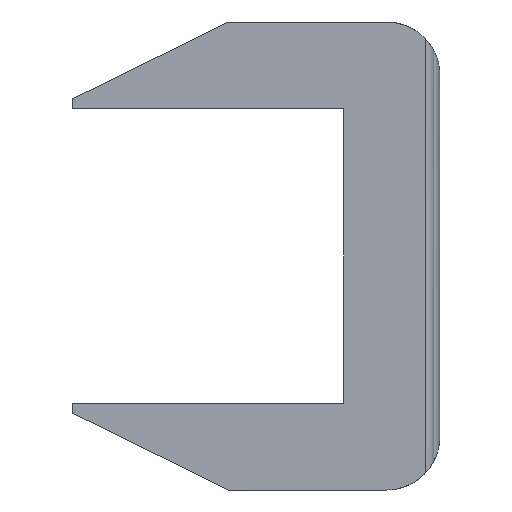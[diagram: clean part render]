
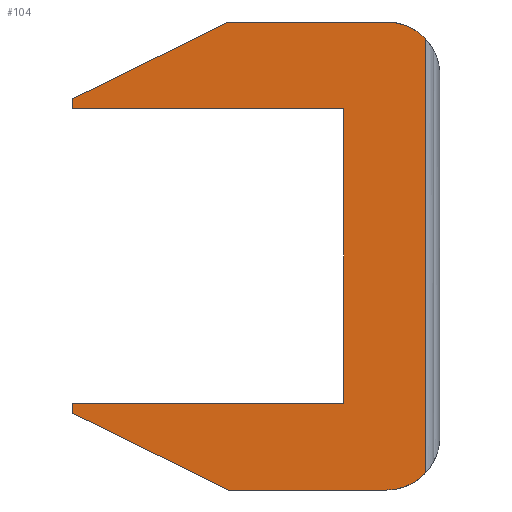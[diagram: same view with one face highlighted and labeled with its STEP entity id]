
A CAD part, front view. The second image highlights one B-rep face of the part: STEP entity #104.
In plain terms, the highlighted planar face has unit normal (0, -1, 0).
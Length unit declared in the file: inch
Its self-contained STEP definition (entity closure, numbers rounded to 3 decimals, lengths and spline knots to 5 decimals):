
#104=ADVANCED_FACE('',(#220),#221,.F.);
#220=FACE_OUTER_BOUND('',#407,.T.);
#221=PLANE('',#408);
#407=EDGE_LOOP('',(#701,#702,#703,#704,#705,#706,#707,#708,#709,#710,#711,#712));
#408=AXIS2_PLACEMENT_3D('',#713,#714,#715);
#701=ORIENTED_EDGE('',*,*,#931,.F.);
#702=ORIENTED_EDGE('',*,*,#922,.F.);
#703=ORIENTED_EDGE('',*,*,#932,.F.);
#704=ORIENTED_EDGE('',*,*,#916,.F.);
#705=ORIENTED_EDGE('',*,*,#933,.F.);
#706=ORIENTED_EDGE('',*,*,#897,.F.);
#707=ORIENTED_EDGE('',*,*,#841,.F.);
#708=ORIENTED_EDGE('',*,*,#894,.F.);
#709=ORIENTED_EDGE('',*,*,#910,.F.);
#710=ORIENTED_EDGE('',*,*,#902,.F.);
#711=ORIENTED_EDGE('',*,*,#934,.F.);
#712=ORIENTED_EDGE('',*,*,#935,.T.);
#713=CARTESIAN_POINT('',(0.18739,0.03596,-0.27576));
#714=DIRECTION('',(0.0,1.0,0.));
#715=DIRECTION('',(-1.0,0.0,0.0));
#841=EDGE_CURVE('',#1000,#1001,#1002,.T.);
#894=EDGE_CURVE('',#1089,#1000,#1090,.T.);
#897=EDGE_CURVE('',#1001,#1093,#1094,.T.);
#902=EDGE_CURVE('',#1099,#1100,#1101,.T.);
#910=EDGE_CURVE('',#1100,#1089,#1111,.T.);
#916=EDGE_CURVE('',#1119,#1120,#1121,.T.);
#922=EDGE_CURVE('',#1127,#1128,#1129,.T.);
#931=EDGE_CURVE('',#1128,#1141,#1142,.T.);
#932=EDGE_CURVE('',#1120,#1127,#1143,.T.);
#933=EDGE_CURVE('',#1093,#1119,#1144,.T.);
#934=EDGE_CURVE('',#1145,#1099,#1146,.T.);
#935=EDGE_CURVE('',#1145,#1141,#1147,.T.);
#1000=VERTEX_POINT('',#1270);
#1001=VERTEX_POINT('',#1271);
#1002=LINE('',#1272,#1273);
#1089=VERTEX_POINT('',#1466);
#1090=LINE('',#1467,#1468);
#1093=VERTEX_POINT('',#1472);
#1094=LINE('',#1473,#1474);
#1099=VERTEX_POINT('',#1486);
#1100=VERTEX_POINT('',#1487);
#1101=LINE('',#1488,#1489);
#1111=LINE('',#1505,#1506);
#1119=VERTEX_POINT('',#1533);
#1120=VERTEX_POINT('',#1534);
#1121=LINE('',#1535,#1536);
#1127=VERTEX_POINT('',#1547);
#1128=VERTEX_POINT('',#1548);
#1129=LINE('',#1549,#1550);
#1141=VERTEX_POINT('',#1569);
#1142=B_SPLINE_CURVE_WITH_KNOTS('',3,(#1570,#1571,#1572,#1573,#1574,#1575,#1576,#1577),.UNSPECIFIED.,.F.,.F.,(4,2,2,4),(-0.49712,-0.34328,-0.1949,-0.0),.UNSPECIFIED.);
#1143=LINE('',#1578,#1579);
#1144=LINE('',#1580,#1581);
#1145=VERTEX_POINT('',#1582);
#1146=B_SPLINE_CURVE_WITH_KNOTS('',3,(#1583,#1584,#1585,#1586,#1587,#1588,#1589,#1590),.UNSPECIFIED.,.F.,.F.,(4,2,2,4),(-0.49837,-0.34637,-0.19345,-0.0),.UNSPECIFIED.);
#1147=LINE('',#1591,#1592);
#1270=CARTESIAN_POINT('',(-1.45873,0.03596,0.77654));
#1271=CARTESIAN_POINT('',(1.08253,0.03596,0.77654));
#1272=CARTESIAN_POINT('',(-0.00036,0.03596,0.77654));
#1273=VECTOR('',#1705,1.0);
#1466=CARTESIAN_POINT('',(-1.45873,0.03596,0.68279));
#1467=CARTESIAN_POINT('',(-1.45873,0.03596,0.22695));
#1468=VECTOR('',#1731,1.0);
#1472=CARTESIAN_POINT('',(1.08253,0.03596,3.52654));
#1473=CARTESIAN_POINT('',(1.08253,0.03596,0.93789));
#1474=VECTOR('',#1733,1.0);
#1486=CARTESIAN_POINT('',(1.47877,0.03596,-0.03596));
#1487=CARTESIAN_POINT('',(0.0,0.03596,-0.03596));
#1488=CARTESIAN_POINT('',(0.46339,0.03596,-0.03596));
#1489=VECTOR('',#1735,1.0);
#1505=CARTESIAN_POINT('',(-0.24176,0.03596,0.08315));
#1506=VECTOR('',#1742,1.0);
#1533=CARTESIAN_POINT('',(-1.45873,0.03596,3.52654));
#1534=CARTESIAN_POINT('',(-1.45873,0.03596,3.62029));
#1535=CARTESIAN_POINT('',(-1.45873,0.03596,1.64883));
#1536=VECTOR('',#1744,1.0);
#1547=CARTESIAN_POINT('',(0.0,0.03596,4.33904));
#1548=CARTESIAN_POINT('',(1.47877,0.03596,4.33904));
#1549=CARTESIAN_POINT('',(0.46339,0.03596,4.33904));
#1550=VECTOR('',#1747,1.0);
#1569=CARTESIAN_POINT('',(1.84734,0.03596,4.17691));
#1570=CARTESIAN_POINT('',(1.47877,0.03596,4.33904));
#1571=CARTESIAN_POINT('',(1.53012,0.03596,4.33904));
#1572=CARTESIAN_POINT('',(1.58092,0.03596,4.33129));
#1573=CARTESIAN_POINT('',(1.67701,0.03596,4.30088));
#1574=CARTESIAN_POINT('',(1.72165,0.03596,4.27897));
#1575=CARTESIAN_POINT('',(1.81583,0.03596,4.214));
#1576=CARTESIAN_POINT('',(1.86174,0.03596,4.16698));
#1577=CARTESIAN_POINT('',(1.89734,0.03596,4.11263));
#1578=CARTESIAN_POINT('',(-1.2041,0.03596,3.74575));
#1579=VECTOR('',#1755,1.0);
#1580=CARTESIAN_POINT('',(-0.00036,0.03596,3.52654));
#1581=VECTOR('',#1756,1.0);
#1582=CARTESIAN_POINT('',(1.84734,0.03596,0.12617));
#1583=CARTESIAN_POINT('',(1.89734,0.03596,0.19044));
#1584=CARTESIAN_POINT('',(1.86964,0.03596,0.14815));
#1585=CARTESIAN_POINT('',(1.83565,0.03596,0.11024));
#1586=CARTESIAN_POINT('',(1.75741,0.03596,0.04573));
#1587=CARTESIAN_POINT('',(1.71346,0.03596,0.01949));
#1588=CARTESIAN_POINT('',(1.60665,0.03596,-0.02376));
#1589=CARTESIAN_POINT('',(1.54325,0.03596,-0.03596));
#1590=CARTESIAN_POINT('',(1.47877,0.03596,-0.03596));
#1591=CARTESIAN_POINT('',(1.84734,0.03596,-0.27576));
#1592=VECTOR('',#1757,1.0);
#1705=DIRECTION('',(1.0,0.0,0.0));
#1731=DIRECTION('',(0.0,0.,1.0));
#1733=DIRECTION('',(0.0,0.,1.0));
#1735=DIRECTION('',(-1.0,0.0,0.0));
#1742=DIRECTION('',(-0.897,0.,0.442));
#1744=DIRECTION('',(0.0,0.,1.0));
#1747=DIRECTION('',(1.0,0.0,0.0));
#1755=DIRECTION('',(0.897,0.,0.442));
#1756=DIRECTION('',(-1.0,0.0,0.0));
#1757=DIRECTION('',(0.0,0.,1.0));
